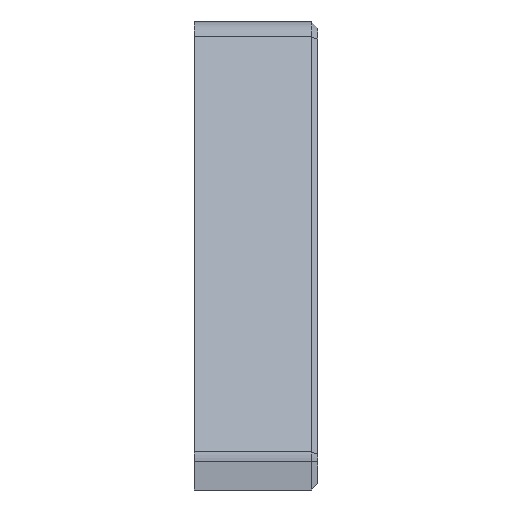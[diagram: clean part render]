
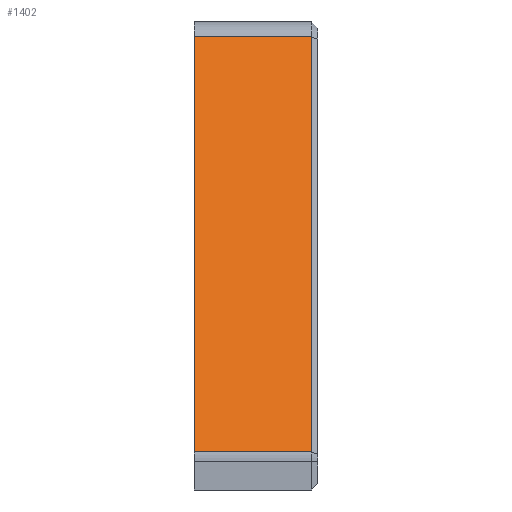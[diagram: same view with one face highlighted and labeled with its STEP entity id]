
A CAD part, front view. The second image highlights one B-rep face of the part: STEP entity #1402.
In plain terms, the highlighted planar face has unit normal (0, -0.916, 0.402).
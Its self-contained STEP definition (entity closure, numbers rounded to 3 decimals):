
#44 = CYLINDRICAL_SURFACE('',#45,2.);
#45 = AXIS2_PLACEMENT_3D('',#46,#47,#48);
#46 = CARTESIAN_POINT('',(80.,-13.257,10.8));
#47 = DIRECTION('',(1.,0.,0.));
#48 = DIRECTION('',(0.,0.,1.));
#126 = PLANE('',#127);
#127 = AXIS2_PLACEMENT_3D('',#128,#129,#130);
#128 = CARTESIAN_POINT('',(80.,0.,-7.182));
#129 = DIRECTION('',(1.,0.,0.));
#130 = DIRECTION('',(0.,1.,0.));
#143 = VERTEX_POINT('',#144);
#144 = CARTESIAN_POINT('',(80.,-15.089,11.603));
#166 = EDGE_CURVE('',#143,#167,#169,.T.);
#167 = VERTEX_POINT('',#168);
#168 = CARTESIAN_POINT('',(89.5,-15.089,11.603));
#169 = SURFACE_CURVE('',#170,(#174,#181),.PCURVE_S1.);
#170 = LINE('',#171,#172);
#171 = CARTESIAN_POINT('',(80.,-15.089,11.603));
#172 = VECTOR('',#173,1.);
#173 = DIRECTION('',(1.,0.,0.));
#174 = PCURVE('',#44,#175);
#175 = DEFINITIONAL_REPRESENTATION('',(#176),#180);
#176 = LINE('',#177,#178);
#177 = CARTESIAN_POINT('',(1.158,0.));
#178 = VECTOR('',#179,1.);
#179 = DIRECTION('',(0.,1.));
#180 = ( GEOMETRIC_REPRESENTATION_CONTEXT(2) 
PARAMETRIC_REPRESENTATION_CONTEXT() REPRESENTATION_CONTEXT('2D SPACE',''
  ) );
#181 = PCURVE('',#182,#187);
#182 = PLANE('',#183);
#183 = AXIS2_PLACEMENT_3D('',#184,#185,#186);
#184 = CARTESIAN_POINT('',(80.,-30.,-22.4));
#185 = DIRECTION('',(0.,-0.916,0.402));
#186 = DIRECTION('',(0.,0.402,0.916));
#187 = DEFINITIONAL_REPRESENTATION('',(#188),#192);
#188 = LINE('',#189,#190);
#189 = CARTESIAN_POINT('',(37.129,0.));
#190 = VECTOR('',#191,1.);
#191 = DIRECTION('',(0.,-1.));
#192 = ( GEOMETRIC_REPRESENTATION_CONTEXT(2) 
PARAMETRIC_REPRESENTATION_CONTEXT() REPRESENTATION_CONTEXT('2D SPACE',''
  ) );
#307 = EDGE_CURVE('',#308,#143,#310,.T.);
#308 = VERTEX_POINT('',#309);
#309 = CARTESIAN_POINT('',(80.,-29.832,-22.016));
#310 = SURFACE_CURVE('',#311,(#315,#322),.PCURVE_S1.);
#311 = LINE('',#312,#313);
#312 = CARTESIAN_POINT('',(80.,-30.,-22.4));
#313 = VECTOR('',#314,1.);
#314 = DIRECTION('',(0.,0.402,0.916));
#315 = PCURVE('',#126,#316);
#316 = DEFINITIONAL_REPRESENTATION('',(#317),#321);
#317 = LINE('',#318,#319);
#318 = CARTESIAN_POINT('',(-30.,-15.218));
#319 = VECTOR('',#320,1.);
#320 = DIRECTION('',(0.402,0.916));
#321 = ( GEOMETRIC_REPRESENTATION_CONTEXT(2) 
PARAMETRIC_REPRESENTATION_CONTEXT() REPRESENTATION_CONTEXT('2D SPACE',''
  ) );
#322 = PCURVE('',#182,#323);
#323 = DEFINITIONAL_REPRESENTATION('',(#324),#328);
#324 = LINE('',#325,#326);
#325 = CARTESIAN_POINT('',(0.,0.));
#326 = VECTOR('',#327,1.);
#327 = DIRECTION('',(1.,0.));
#328 = ( GEOMETRIC_REPRESENTATION_CONTEXT(2) 
PARAMETRIC_REPRESENTATION_CONTEXT() REPRESENTATION_CONTEXT('2D SPACE',''
  ) );
#351 = CYLINDRICAL_SURFACE('',#352,2.);
#352 = AXIS2_PLACEMENT_3D('',#353,#354,#355);
#353 = CARTESIAN_POINT('',(80.,-28.,-22.819));
#354 = DIRECTION('',(1.,0.,0.));
#355 = DIRECTION('',(0.,-1.,0.));
#1363 = PLANE('',#1364);
#1364 = AXIS2_PLACEMENT_3D('',#1365,#1366,#1367);
#1365 = CARTESIAN_POINT('',(89.75,-29.603,-22.116));
#1366 = DIRECTION('',(0.707,-0.648,0.284));
#1367 = DIRECTION('',(0.,-0.402,
    -0.916));
#1402 = ADVANCED_FACE('',(#1403),#182,.T.);
#1403 = FACE_BOUND('',#1404,.T.);
#1404 = EDGE_LOOP('',(#1405,#1428,#1449,#1450));
#1405 = ORIENTED_EDGE('',*,*,#1406,.T.);
#1406 = EDGE_CURVE('',#308,#1407,#1409,.T.);
#1407 = VERTEX_POINT('',#1408);
#1408 = CARTESIAN_POINT('',(89.5,-29.832,-22.016));
#1409 = SURFACE_CURVE('',#1410,(#1414,#1421),.PCURVE_S1.);
#1410 = LINE('',#1411,#1412);
#1411 = CARTESIAN_POINT('',(80.,-29.832,-22.016));
#1412 = VECTOR('',#1413,1.);
#1413 = DIRECTION('',(1.,0.,0.));
#1414 = PCURVE('',#182,#1415);
#1415 = DEFINITIONAL_REPRESENTATION('',(#1416),#1420);
#1416 = LINE('',#1417,#1418);
#1417 = CARTESIAN_POINT('',(0.419,0.));
#1418 = VECTOR('',#1419,1.);
#1419 = DIRECTION('',(0.,-1.));
#1420 = ( GEOMETRIC_REPRESENTATION_CONTEXT(2) 
PARAMETRIC_REPRESENTATION_CONTEXT() REPRESENTATION_CONTEXT('2D SPACE',''
  ) );
#1421 = PCURVE('',#351,#1422);
#1422 = DEFINITIONAL_REPRESENTATION('',(#1423),#1427);
#1423 = LINE('',#1424,#1425);
#1424 = CARTESIAN_POINT('',(-0.413,0.));
#1425 = VECTOR('',#1426,1.);
#1426 = DIRECTION('',(-0.,1.));
#1427 = ( GEOMETRIC_REPRESENTATION_CONTEXT(2) 
PARAMETRIC_REPRESENTATION_CONTEXT() REPRESENTATION_CONTEXT('2D SPACE',''
  ) );
#1428 = ORIENTED_EDGE('',*,*,#1429,.T.);
#1429 = EDGE_CURVE('',#1407,#167,#1430,.T.);
#1430 = SURFACE_CURVE('',#1431,(#1435,#1442),.PCURVE_S1.);
#1431 = LINE('',#1432,#1433);
#1432 = CARTESIAN_POINT('',(89.5,-29.832,-22.016));
#1433 = VECTOR('',#1434,1.);
#1434 = DIRECTION('',(0.,0.402,0.916));
#1435 = PCURVE('',#182,#1436);
#1436 = DEFINITIONAL_REPRESENTATION('',(#1437),#1441);
#1437 = LINE('',#1438,#1439);
#1438 = CARTESIAN_POINT('',(0.419,-9.5));
#1439 = VECTOR('',#1440,1.);
#1440 = DIRECTION('',(1.,0.));
#1441 = ( GEOMETRIC_REPRESENTATION_CONTEXT(2) 
PARAMETRIC_REPRESENTATION_CONTEXT() REPRESENTATION_CONTEXT('2D SPACE',''
  ) );
#1442 = PCURVE('',#1363,#1443);
#1443 = DEFINITIONAL_REPRESENTATION('',(#1444),#1448);
#1444 = LINE('',#1445,#1446);
#1445 = CARTESIAN_POINT('',(0.,-0.354));
#1446 = VECTOR('',#1447,1.);
#1447 = DIRECTION('',(-1.,0.));
#1448 = ( GEOMETRIC_REPRESENTATION_CONTEXT(2) 
PARAMETRIC_REPRESENTATION_CONTEXT() REPRESENTATION_CONTEXT('2D SPACE',''
  ) );
#1449 = ORIENTED_EDGE('',*,*,#166,.F.);
#1450 = ORIENTED_EDGE('',*,*,#307,.F.);
